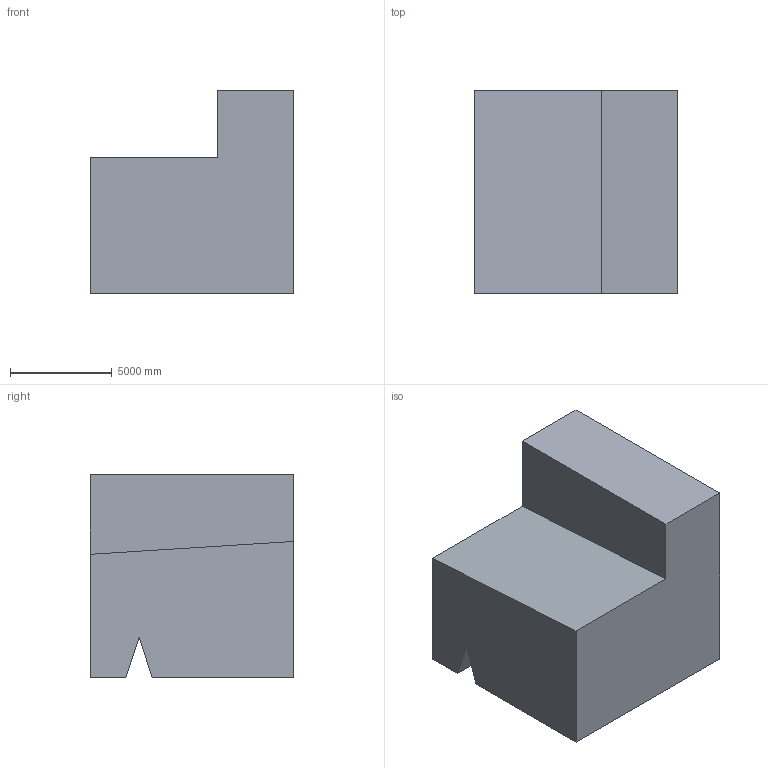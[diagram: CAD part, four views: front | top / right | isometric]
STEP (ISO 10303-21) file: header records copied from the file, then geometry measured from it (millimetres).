
FILE_DESCRIPTION (( 'STEP AP203' ), '1' );
FILE_NAME ('188.STEP', '2022-07-28T13:51:03', ( 'user' ), ( '' ), 'SwSTEP 2.0', 'SolidWorks 2021', '' );
FILE_SCHEMA (( 'CONFIG_CONTROL_DESIGN' ));
Length unit declared in the file: centimetre
Products named in the file (1): 188
Bounding box: 10000 x 10000 x 10000 mm (x, y, z)
Volume: 760748893945.5 mm3; surface area: 580893769 mm2
Topology: 1 solids, 1 shells, 11 faces, 27 edges, 18 vertices
Faces by surface type: plane 11
Entity records: 398 total; most frequent: CARTESIAN_POINT 57, ORIENTED_EDGE 54, DIRECTION 51, LINE 27, EDGE_CURVE 27, VECTOR 27, VERTEX_POINT 18, AXIS2_PLACEMENT_3D 12
